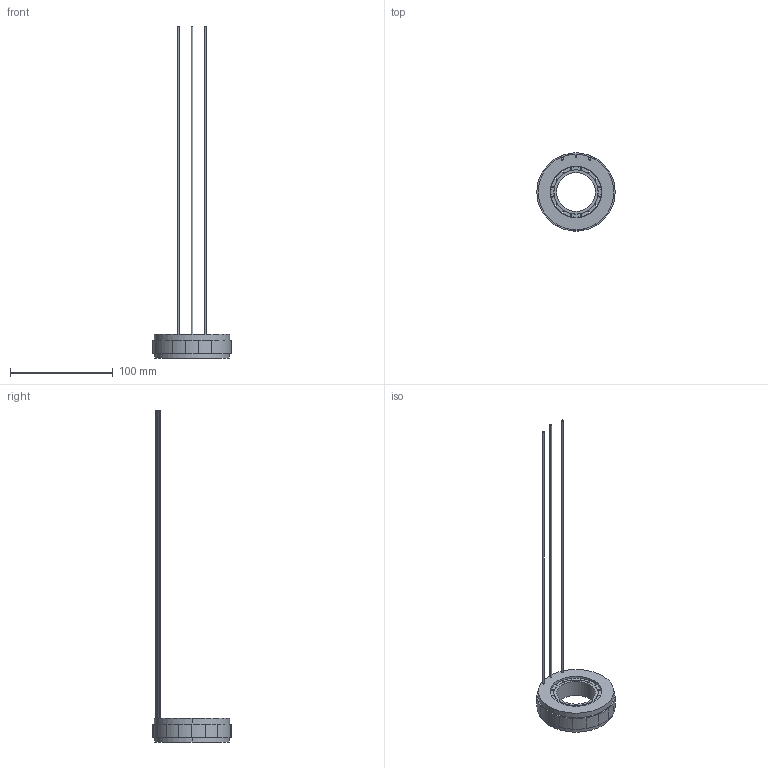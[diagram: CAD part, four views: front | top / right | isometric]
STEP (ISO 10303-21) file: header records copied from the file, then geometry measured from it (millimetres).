
FILE_DESCRIPTION (( 'STEP AP203' ), '1' );
FILE_NAME ('307070065SS（FMC07612-0029-3338N-8DK00）-V1.2.STEP', '2022-12-30T09:33:56', ( 'muse' ), ( 'muse' ), 'SwSTEP 2.0', 'SolidWorks 2022', '' );
FILE_SCHEMA (( 'CONFIG_CONTROL_DESIGN' ));
Length unit declared in the file: millimetre
Products named in the file (1): 307070065SS（FMC07612-0029-3338N-8DK00）-V1.2
Bounding box: 76 x 75.87 x 322.9 mm (x, y, z)
Volume: 59323.7 mm3; surface area: 47164.8 mm2
Topology: 37 solids, 37 shells, 555 faces, 1434 edges, 956 vertices
Faces by surface type: plane 361, cylinder 194
Entity records: 16953 total; most frequent: CARTESIAN_POINT 2946, DIRECTION 2934, ORIENTED_EDGE 2868, EDGE_CURVE 1434, LINE 1046, VECTOR 1046, VERTEX_POINT 956, AXIS2_PLACEMENT_3D 944
